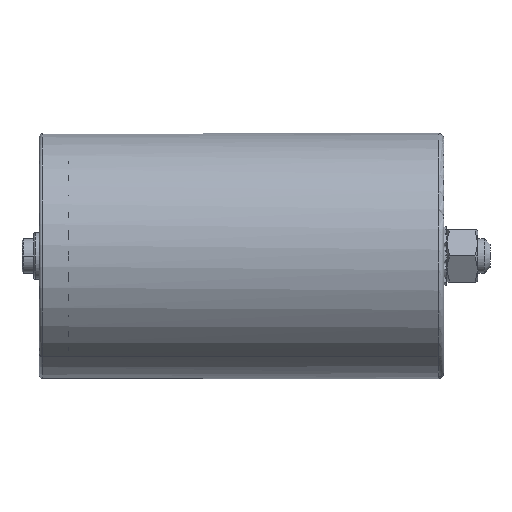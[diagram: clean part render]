
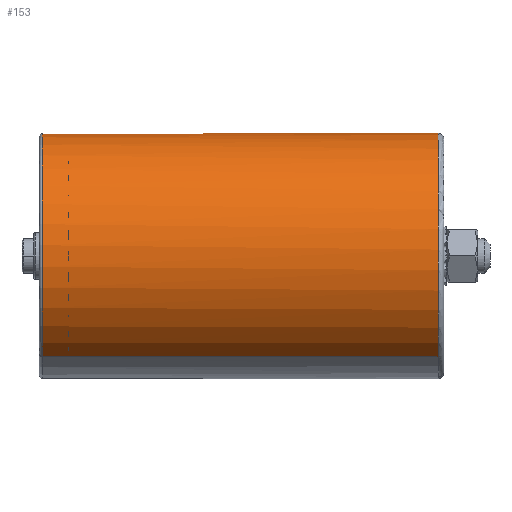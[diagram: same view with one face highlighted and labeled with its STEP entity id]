
A CAD part, left-side view. The second image highlights one B-rep face of the part: STEP entity #153.
In plain terms, the highlighted cylindrical face has radius 42.5 mm (diameter 85 mm), a partial arc.
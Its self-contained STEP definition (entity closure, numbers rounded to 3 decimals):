
#153 = ADVANCED_FACE ( 'NONE', ( #5089 ), #6895, .T. ) ;
#296 = AXIS2_PLACEMENT_3D ( 'NONE', #715, #1360, #5926 ) ;
#534 = CARTESIAN_POINT ( 'NONE',  ( 18.6, -132.544, 115.414 ) ) ;
#672 = CIRCLE ( 'NONE', #7957, 42.5 ) ;
#715 = CARTESIAN_POINT ( 'NONE',  ( -5.777, 4.456, 80.6 ) ) ;
#843 = AXIS2_PLACEMENT_3D ( 'NONE', #3048, #4352, #5010 ) ;
#1155 = DIRECTION ( 'NONE',  ( 0., 0., -1. ) ) ;
#1234 = CARTESIAN_POINT ( 'NONE',  ( 18.6, 4.456, 115.414 ) ) ;
#1360 = DIRECTION ( 'NONE',  ( 0., -1., 0. ) ) ;
#1414 = CARTESIAN_POINT ( 'NONE',  ( -5.777, -132.544, 123.1 ) ) ;
#1621 = CARTESIAN_POINT ( 'NONE',  ( -30.154, 4.456, 45.786 ) ) ;
#1674 = DIRECTION ( 'NONE',  ( 0., 1., 0. ) ) ;
#2053 = VERTEX_POINT ( 'NONE', #534 ) ;
#2347 = DIRECTION ( 'NONE',  ( 0., 1., 0. ) ) ;
#2354 = ORIENTED_EDGE ( 'NONE', *, *, #3094, .T. ) ;
#2380 = VECTOR ( 'NONE', #2546, 1000. ) ;
#2441 = EDGE_CURVE ( 'NONE', #7335, #5333, #4854, .T. ) ;
#2546 = DIRECTION ( 'NONE',  ( 0., 1., 0. ) ) ;
#2956 = EDGE_CURVE ( 'NONE', #2053, #7335, #4855, .T. ) ;
#3048 = CARTESIAN_POINT ( 'NONE',  ( -5.777, -132.544, 80.6 ) ) ;
#3094 = EDGE_CURVE ( 'NONE', #6665, #2053, #672, .T. ) ;
#3370 = AXIS2_PLACEMENT_3D ( 'NONE', #6273, #2347, #4898 ) ;
#3635 = CARTESIAN_POINT ( 'NONE',  ( -30.154, -4.544, 45.786 ) ) ;
#3756 = EDGE_CURVE ( 'NONE', #3869, #5333, #8173, .T. ) ;
#3869 = VERTEX_POINT ( 'NONE', #5542 ) ;
#4125 = ORIENTED_EDGE ( 'NONE', *, *, #3756, .F. ) ;
#4136 = EDGE_CURVE ( 'NONE', #3869, #6665, #5921, .T. ) ;
#4352 = DIRECTION ( 'NONE',  ( 0., 1., 0. ) ) ;
#4702 = CARTESIAN_POINT ( 'NONE',  ( 18.6, -4.544, 115.414 ) ) ;
#4854 = CIRCLE ( 'NONE', #296, 42.5 ) ;
#4855 = LINE ( 'NONE', #4702, #2380 ) ;
#4898 = DIRECTION ( 'NONE',  ( -0.574, 0., -0.819 ) ) ;
#5010 = DIRECTION ( 'NONE',  ( 0., 0., -1. ) ) ;
#5089 = FACE_OUTER_BOUND ( 'NONE', #6282, .T. ) ;
#5333 = VERTEX_POINT ( 'NONE', #1621 ) ;
#5542 = CARTESIAN_POINT ( 'NONE',  ( -30.154, -132.544, 45.786 ) ) ;
#5921 = CIRCLE ( 'NONE', #843, 42.5 ) ;
#5926 = DIRECTION ( 'NONE',  ( 0.574, 0., 0.819 ) ) ;
#6273 = CARTESIAN_POINT ( 'NONE',  ( -5.777, -4.544, 80.6 ) ) ;
#6282 = EDGE_LOOP ( 'NONE', ( #2354, #8291, #7919, #4125, #6494 ) ) ;
#6406 = DIRECTION ( 'NONE',  ( 0., 1., 0. ) ) ;
#6494 = ORIENTED_EDGE ( 'NONE', *, *, #4136, .T. ) ;
#6509 = VECTOR ( 'NONE', #1674, 1000. ) ;
#6665 = VERTEX_POINT ( 'NONE', #1414 ) ;
#6895 = CYLINDRICAL_SURFACE ( 'NONE', #3370, 42.5 ) ;
#7335 = VERTEX_POINT ( 'NONE', #1234 ) ;
#7919 = ORIENTED_EDGE ( 'NONE', *, *, #2441, .T. ) ;
#7957 = AXIS2_PLACEMENT_3D ( 'NONE', #8338, #6406, #1155 ) ;
#8173 = LINE ( 'NONE', #3635, #6509 ) ;
#8291 = ORIENTED_EDGE ( 'NONE', *, *, #2956, .T. ) ;
#8338 = CARTESIAN_POINT ( 'NONE',  ( -5.777, -132.544, 80.6 ) ) ;
